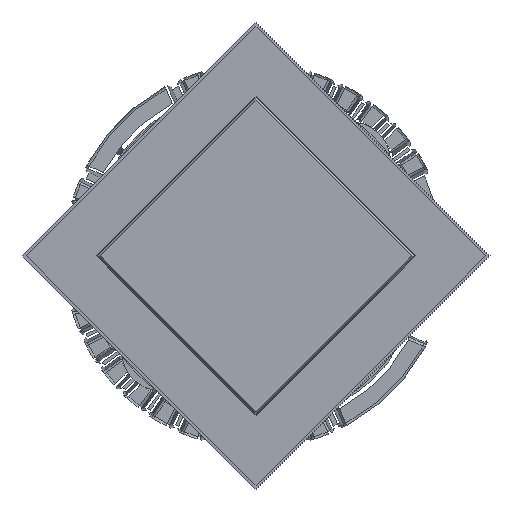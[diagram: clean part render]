
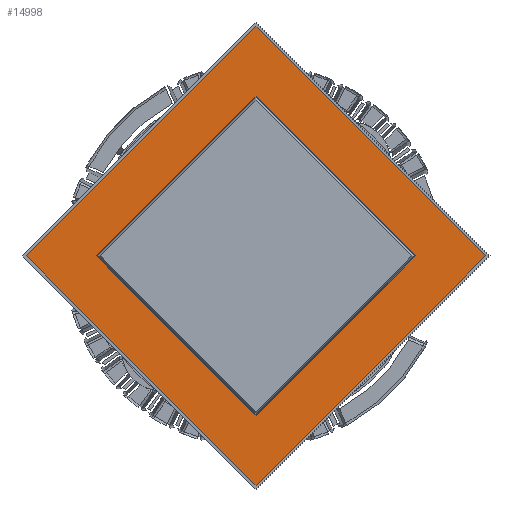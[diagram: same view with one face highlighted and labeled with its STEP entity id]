
A CAD part, top view. The second image highlights one B-rep face of the part: STEP entity #14998.
In plain terms, the highlighted planar face has unit normal (0, 0, 1).
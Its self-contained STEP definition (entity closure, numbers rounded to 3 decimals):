
#2920=ORIENTED_EDGE('',*,*,#7498,.T.);
#2921=ORIENTED_EDGE('',*,*,#7509,.T.);
#7498=EDGE_CURVE('',#9825,#9825,#11190,.F.);
#7509=EDGE_CURVE('',#9838,#9838,#11201,.T.);
#9825=VERTEX_POINT('',#29935);
#9838=VERTEX_POINT('',#29969);
#11190=CIRCLE('',#23126,47.5);
#11201=CIRCLE('',#23147,33.);
#12347=EDGE_LOOP('',(#2920));
#12348=EDGE_LOOP('',(#2921));
#13571=FACE_BOUND('',#12347,.T.);
#13572=FACE_BOUND('',#12348,.T.);
#14726=PLANE('',#23146);
#14998=ADVANCED_FACE('',(#13571,#13572),#14726,.F.);
#23126=AXIS2_PLACEMENT_3D('',#29934,#25236,#25237);
#23146=AXIS2_PLACEMENT_3D('',#29967,#25276,#25277);
#23147=AXIS2_PLACEMENT_3D('',#29968,#25278,#25279);
#25236=DIRECTION('',(0.,0.,-1.));
#25237=DIRECTION('',(0.,-1.,0.));
#25276=DIRECTION('',(0.,0.,-1.));
#25277=DIRECTION('',(0.,-1.,0.));
#25278=DIRECTION('',(0.,0.,-1.));
#25279=DIRECTION('',(0.,-1.,0.));
#29934=CARTESIAN_POINT('',(0.,0.,5.18));
#29935=CARTESIAN_POINT('',(0.,-47.5,5.18));
#29967=CARTESIAN_POINT('',(0.,33.,5.18));
#29968=CARTESIAN_POINT('',(0.,0.,5.18));
#29969=CARTESIAN_POINT('',(0.,-33.,5.18));
